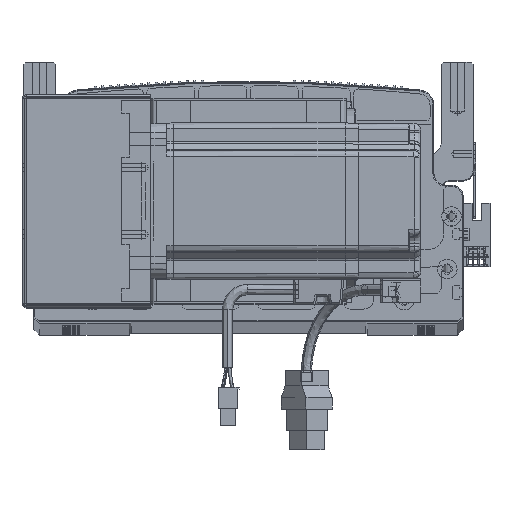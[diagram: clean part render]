
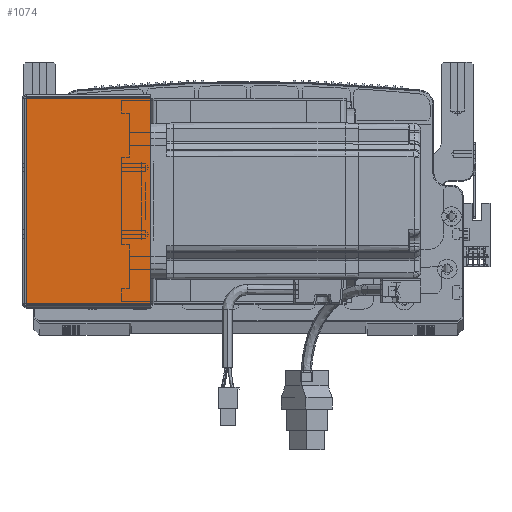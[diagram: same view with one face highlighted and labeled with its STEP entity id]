
A CAD part, top view. The second image highlights one B-rep face of the part: STEP entity #1074.
In plain terms, the highlighted planar face has unit normal (0, 0, 1) as drawn and (0, 0, -1) by its records, which use the part's own axes.
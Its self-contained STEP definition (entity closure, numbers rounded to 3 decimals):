
#55 = LINE ( 'NONE', #101965, #16058 ) ;
#865 = DIRECTION ( 'NONE',  ( 1., 0., 0. ) ) ;
#1074 = ADVANCED_FACE ( 'NONE', ( #83681 ), #54538, .F. ) ;
#1338 = CARTESIAN_POINT ( 'NONE',  ( 64.5, 0.707, -205.5 ) ) ;
#2070 = CARTESIAN_POINT ( 'NONE',  ( 0., 0.707, -205.5 ) ) ;
#8233 = DIRECTION ( 'NONE',  ( 1., 0., 0. ) ) ;
#14256 = EDGE_CURVE ( 'NONE', #22492, #71533, #88500, .T. ) ;
#16058 = VECTOR ( 'NONE', #865, 1000. ) ;
#19338 = ORIENTED_EDGE ( 'NONE', *, *, #63168, .T. ) ;
#22492 = VERTEX_POINT ( 'NONE', #34572 ) ;
#22517 = VECTOR ( 'NONE', #65869, 1000. ) ;
#23934 = DIRECTION ( 'NONE',  ( 0., -1., 0. ) ) ;
#31540 = ORIENTED_EDGE ( 'NONE', *, *, #78514, .F. ) ;
#34572 = CARTESIAN_POINT ( 'NONE',  ( 64.5, 105.293, -205.5 ) ) ;
#39128 = CARTESIAN_POINT ( 'NONE',  ( 64.5, 0., -205.5 ) ) ;
#42179 = CARTESIAN_POINT ( 'NONE',  ( 0.737, 0., -205.5 ) ) ;
#42819 = ORIENTED_EDGE ( 'NONE', *, *, #14256, .T. ) ;
#46008 = DIRECTION ( 'NONE',  ( 0., 0., 1. ) ) ;
#53034 = AXIS2_PLACEMENT_3D ( 'NONE', #71098, #46008, #8233 ) ;
#54538 = PLANE ( 'NONE',  #53034 ) ;
#56468 = VECTOR ( 'NONE', #23934, 1000. ) ;
#60840 = CARTESIAN_POINT ( 'NONE',  ( 0.737, 0.707, -205.5 ) ) ;
#63168 = EDGE_CURVE ( 'NONE', #93992, #22492, #55, .T. ) ;
#64412 = LINE ( 'NONE', #42179, #22517 ) ;
#65869 = DIRECTION ( 'NONE',  ( 0., -1., 0. ) ) ;
#66200 = ORIENTED_EDGE ( 'NONE', *, *, #79241, .F. ) ;
#66654 = CARTESIAN_POINT ( 'NONE',  ( 0.737, 105.293, -205.5 ) ) ;
#71003 = EDGE_LOOP ( 'NONE', ( #66200, #19338, #42819, #31540 ) ) ;
#71098 = CARTESIAN_POINT ( 'NONE',  ( 0., 0., -205.5 ) ) ;
#71533 = VERTEX_POINT ( 'NONE', #1338 ) ;
#75642 = VECTOR ( 'NONE', #79416, 1000. ) ;
#78514 = EDGE_CURVE ( 'NONE', #98752, #71533, #96547, .T. ) ;
#79241 = EDGE_CURVE ( 'NONE', #93992, #98752, #64412, .T. ) ;
#79416 = DIRECTION ( 'NONE',  ( 1., 0., 0. ) ) ;
#83681 = FACE_OUTER_BOUND ( 'NONE', #71003, .T. ) ;
#88500 = LINE ( 'NONE', #39128, #56468 ) ;
#93992 = VERTEX_POINT ( 'NONE', #66654 ) ;
#96547 = LINE ( 'NONE', #2070, #75642 ) ;
#98752 = VERTEX_POINT ( 'NONE', #60840 ) ;
#101965 = CARTESIAN_POINT ( 'NONE',  ( 0., 105.293, -205.5 ) ) ;
